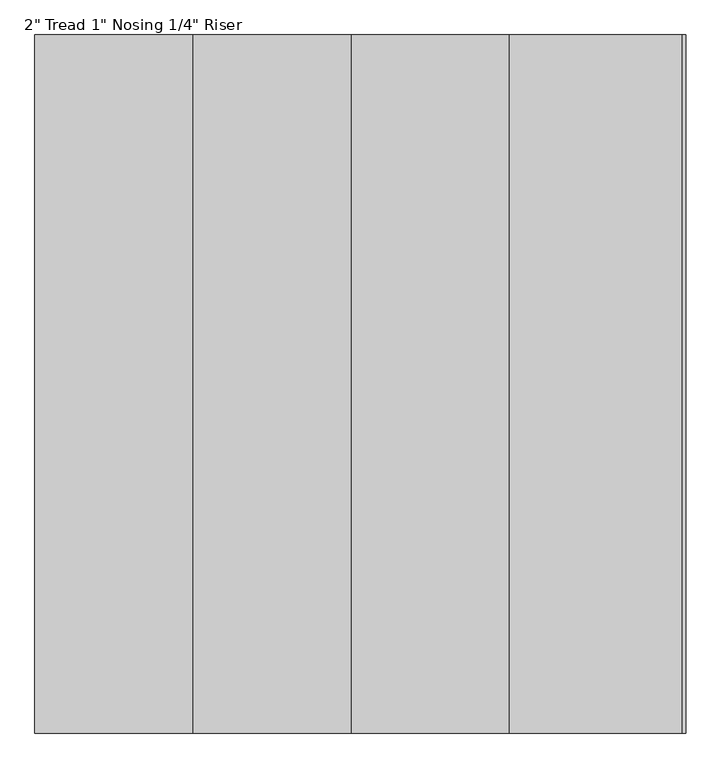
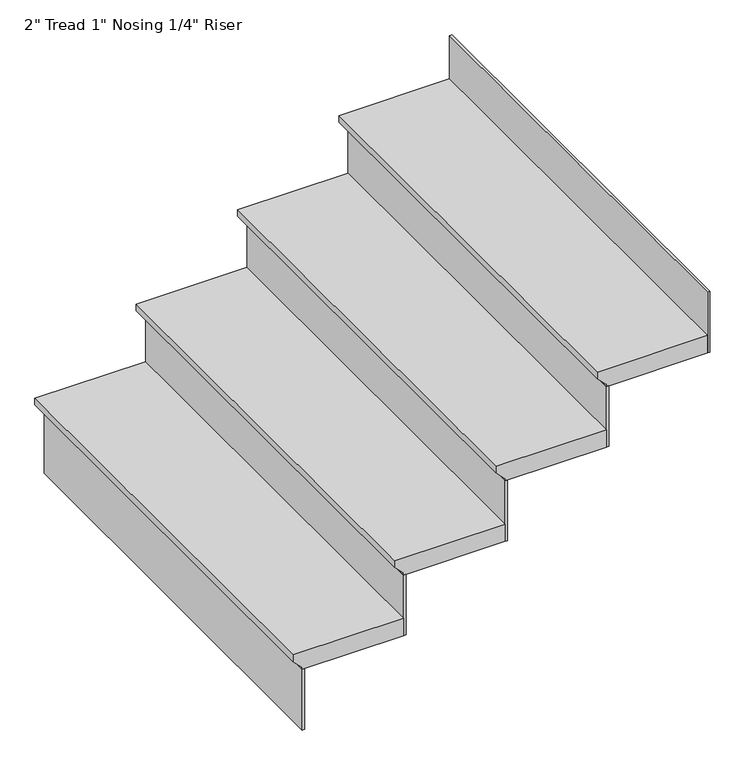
"""IFC4 building model written with IfcOpenShell, lengths in millimetres: stair flight geometry."""

from ifc_helpers import new_model, si_unit, frame, origin, place, context, project, spatial, polyline, outline, extrude, source, transform, mapped, element, save


def stair_flight_8867e0be(model_context):
    return source(origin(), model_context, "Body", "SweptSolid", [
        extrude(outline(polyline([(3156.226087, 11442.7000296), (3156.226087, 11137.9000296), (3137.176087, 11137.9000296), (3111.776087, 11163.3000296), (3105.426087, 11163.3000296), (3105.426087, 11442.7000296), (3156.226087, 11442.7000296)])), frame((0.0, 28295.6058669, 0.0), z_axis=(0.0, 1.0, 0.0), x_axis=(0.0, 0.0, 1.0)), (0.0, 0.0, 1.0), 1231.8940134),
        extrude(outline(polyline([(11169.6500296, 28295.6058669), (11163.3000296, 28295.6058669), (11163.3000296, 29527.4998803), (11169.6500296, 29527.4998803), (11169.6500296, 28295.6058669)])), frame((0.0, 0.0, 2928.7304348), z_axis=(0.0, 0.0, 1.0), x_axis=(1.0, 0.0, 0.0)), (0.0, 0.0, 1.0), 176.6956522),
        extrude(outline(polyline([(11449.0500296, 28295.6058669), (11442.7000296, 28295.6058669), (11442.7000296, 29527.4998803), (11449.0500296, 29527.4998803), (11449.0500296, 28295.6058669)])), frame((0.0, 0.0, 3105.426087), z_axis=(0.0, 0.0, 1.0), x_axis=(1.0, 0.0, 0.0)), (0.0, 0.0, 1.0), 176.6956522),
        extrude(outline(polyline([(3332.9217391, 11722.1000296), (3332.9217391, 11417.3000296), (3313.8717391, 11417.3000296), (3288.4717391, 11442.7000296), (3282.1217391, 11442.7000296), (3282.1217391, 11722.1000296), (3332.9217391, 11722.1000296)])), frame((0.0, 28295.6058669, 0.0), z_axis=(0.0, 1.0, 0.0), x_axis=(0.0, 0.0, 1.0)), (0.0, 0.0, 1.0), 1231.8940134),
        extrude(outline(polyline([(11728.4500296, 28295.6058669), (11722.1000296, 28295.6058669), (11722.1000296, 29527.4998803), (11728.4500296, 29527.4998803), (11728.4500296, 28295.6058669)])), frame((0.0, 0.0, 3282.1217391), z_axis=(0.0, 0.0, 1.0), x_axis=(1.0, 0.0, 0.0)), (0.0, 0.0, 1.0), 176.6956522),
        extrude(outline(polyline([(3509.6173913, 12001.5000296), (3509.6173913, 11696.7000296), (3490.5673913, 11696.7000296), (3465.1673913, 11722.1000296), (3458.8173913, 11722.1000296), (3458.8173913, 12001.5000296), (3509.6173913, 12001.5000296)])), frame((0.0, 28295.6058669, 0.0), z_axis=(0.0, 1.0, 0.0), x_axis=(0.0, 0.0, 1.0)), (0.0, 0.0, 1.0), 1231.8940134),
        extrude(outline(polyline([(12007.8500296, 28295.6058669), (12001.5000296, 28295.6058669), (12001.5000296, 29527.4998803), (12007.8500296, 29527.4998803), (12007.8500296, 28295.6058669)])), frame((0.0, 0.0, 3458.8173913), z_axis=(0.0, 0.0, 1.0), x_axis=(1.0, 0.0, 0.0)), (0.0, 0.0, 1.0), 176.6956522),
        extrude(outline(polyline([(12287.2500296, 28295.6058669), (12280.9000296, 28295.6058669), (12280.9000296, 29527.4998803), (12287.2500296, 29527.4998803), (12287.2500296, 28295.6058669)])), frame((0.0, 0.0, 3635.5130435), z_axis=(0.0, 0.0, 1.0), x_axis=(1.0, 0.0, 0.0)), (0.0, 0.0, 1.0), 176.6956522),
        extrude(outline(polyline([(3686.3130435, 12280.9000296), (3686.3130435, 11976.1000296), (3667.2630435, 11976.1000296), (3641.8630435, 12001.5000296), (3635.5130435, 12001.5000296), (3635.5130435, 12280.9000296), (3686.3130435, 12280.9000296)])), frame((0.0, 28295.6058669, 0.0), z_axis=(0.0, 1.0, 0.0), x_axis=(0.0, 0.0, 1.0)), (0.0, 0.0, 1.0), 1231.8940134),
    ])


if __name__ == "__main__":
    model = new_model("IFC4")
    model_context = context("Model", 3, world=origin())
    ifc_project = project(units=[si_unit("LENGTHUNIT", "METRE", prefix="MILLI")], contexts=[model_context])
    site = spatial("IfcSite", under=ifc_project)
    building = spatial("IfcBuilding", under=site)
    placement = place(None, origin())
    stair_flight_shape = stair_flight_8867e0be(model_context)
    element("IfcStairFlight", 1, ObjectType="2\" Tread 1\" Nosing 1/4\" Riser", at=placement, inside=building, context=model_context, shape_type="MappedRepresentation", body=[
        mapped(stair_flight_shape, transform((0.0, 0.0, 0.0), x_axis=(1.0, 0.0, 0.0), y_axis=(0.0, 1.0, 0.0), z_axis=(0.0, 0.0, 1.0))),
    ])
    save(model, "model.ifc")
